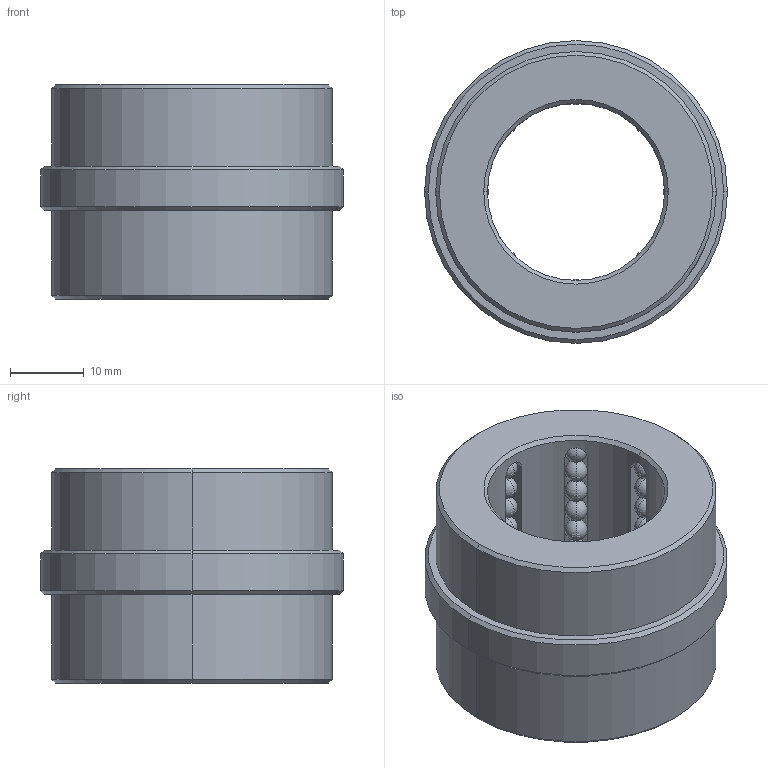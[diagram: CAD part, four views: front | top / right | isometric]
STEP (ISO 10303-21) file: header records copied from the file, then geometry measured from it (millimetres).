
FILE_DESCRIPTION((''),'2;1');
FILE_NAME('B8452417','2018-01-24T',('MANU'),(''),'PRO/ENGINEER BY PARAMETRIC TECHNOLOGY CORPORATION, 2012130','PRO/ENGINEER BY PARAMETRIC TECHNOLOGY CORPORATION, 2012130','');
FILE_SCHEMA(('CONFIG_CONTROL_DESIGN'));
Length unit declared in the file: millimetre
Products named in the file (1): B8452417
Bounding box: 41 x 41 x 29 mm (x, y, z)
Volume: 19975.3 mm3; surface area: 10348.8 mm2
Topology: 65 solids, 65 shells, 192 faces, 534 edges, 224 vertices
Faces by surface type: sphere 128, plane 28, cylinder 24, cone 12
Entity records: 4534 total; most frequent: CARTESIAN_POINT 972, DIRECTION 814, ORIENTED_EDGE 556, AXIS2_PLACEMENT_3D 364, EDGE_CURVE 278, VERTEX_POINT 224, EDGE_LOOP 202, FACE_OUTER_BOUND 192
